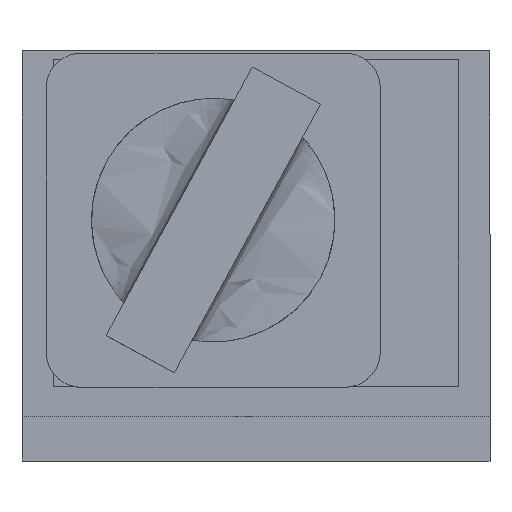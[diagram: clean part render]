
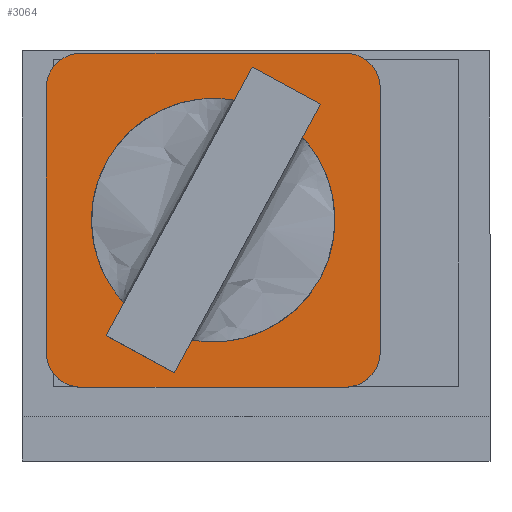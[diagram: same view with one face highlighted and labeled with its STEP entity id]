
A CAD part, top view. The second image highlights one B-rep face of the part: STEP entity #3064.
In plain terms, the highlighted planar face has unit normal (0, 0, 1).
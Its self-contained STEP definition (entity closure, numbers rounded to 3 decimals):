
#21 = CARTESIAN_POINT ( 'NONE',  ( 19.9, -19.9, 447.5 ) ) ;
#42 = DIRECTION ( 'NONE',  ( 1., 0., 0. ) ) ;
#53 = ORIENTED_EDGE ( 'NONE', *, *, #2892, .T. ) ;
#110 = VECTOR ( 'NONE', #1929, 1000. ) ;
#157 = EDGE_CURVE ( 'NONE', #1849, #644, #1875, .T. ) ;
#204 = ORIENTED_EDGE ( 'NONE', *, *, #1153, .F. ) ;
#207 = CARTESIAN_POINT ( 'NONE',  ( -39.1, 39.1, 447.5 ) ) ;
#213 = CARTESIAN_POINT ( 'NONE',  ( 19.9, -27.9, 447.5 ) ) ;
#258 = DIRECTION ( 'NONE',  ( 0., 0., 1. ) ) ;
#274 = CARTESIAN_POINT ( 'NONE',  ( -39.1, 47.1, 447.5 ) ) ;
#377 = LINE ( 'NONE', #274, #110 ) ;
#414 = VECTOR ( 'NONE', #732, 1000. ) ;
#471 = CARTESIAN_POINT ( 'NONE',  ( -47.1, -19.9, 447.5 ) ) ;
#515 = CARTESIAN_POINT ( 'NONE',  ( -33.588, 22.633, 447.5 ) ) ;
#518 = ORIENTED_EDGE ( 'NONE', *, *, #1864, .T. ) ;
#520 = PLANE ( 'NONE',  #2648 ) ;
#598 = CARTESIAN_POINT ( 'NONE',  ( 19.9, -19.9, 447.5 ) ) ;
#601 = CARTESIAN_POINT ( 'NONE',  ( -9.6, 9.6, 447.5 ) ) ;
#644 = VERTEX_POINT ( 'NONE', #890 ) ;
#654 = CARTESIAN_POINT ( 'NONE',  ( 19.9, 47.1, 447.5 ) ) ;
#680 = ORIENTED_EDGE ( 'NONE', *, *, #864, .T. ) ;
#705 = VECTOR ( 'NONE', #42, 1000. ) ;
#708 = VERTEX_POINT ( 'NONE', #2405 ) ;
#732 = DIRECTION ( 'NONE',  ( 0., 1., 0. ) ) ;
#733 = EDGE_CURVE ( 'NONE', #644, #708, #1754, .T. ) ;
#767 = EDGE_CURVE ( 'NONE', #1155, #2804, #1132, .T. ) ;
#800 = CIRCLE ( 'NONE', #2827, 8. ) ;
#827 = DIRECTION ( 'NONE',  ( 0., 0., 1. ) ) ;
#828 = AXIS2_PLACEMENT_3D ( 'NONE', #2059, #1803, #2562 ) ;
#839 = CIRCLE ( 'NONE', #828, 27.3 ) ;
#840 = VERTEX_POINT ( 'NONE', #515 ) ;
#864 = EDGE_CURVE ( 'NONE', #1197, #1738, #377, .T. ) ;
#890 = CARTESIAN_POINT ( 'NONE',  ( 27.9, -19.9, 447.5 ) ) ;
#901 = DIRECTION ( 'NONE',  ( 0., -1., 0. ) ) ;
#902 = ORIENTED_EDGE ( 'NONE', *, *, #733, .T. ) ;
#934 = DIRECTION ( 'NONE',  ( 0., 0., 1. ) ) ;
#943 = CARTESIAN_POINT ( 'NONE',  ( 27.9, -19.9, 447.5 ) ) ;
#947 = VERTEX_POINT ( 'NONE', #1249 ) ;
#951 = CARTESIAN_POINT ( 'NONE',  ( -39.1, -27.9, 447.5 ) ) ;
#985 = EDGE_CURVE ( 'NONE', #840, #2385, #2724, .T. ) ;
#1119 = ORIENTED_EDGE ( 'NONE', *, *, #2523, .T. ) ;
#1132 = CIRCLE ( 'NONE', #2057, 8. ) ;
#1149 = ORIENTED_EDGE ( 'NONE', *, *, #1897, .F. ) ;
#1152 = CARTESIAN_POINT ( 'NONE',  ( 14.388, -3.433, 447.5 ) ) ;
#1153 = EDGE_CURVE ( 'NONE', #947, #840, #839, .T. ) ;
#1155 = VERTEX_POINT ( 'NONE', #1336 ) ;
#1157 = DIRECTION ( 'NONE',  ( 0., -1., 0. ) ) ;
#1175 = EDGE_CURVE ( 'NONE', #708, #1197, #2518, .T. ) ;
#1197 = VERTEX_POINT ( 'NONE', #654 ) ;
#1249 = CARTESIAN_POINT ( 'NONE',  ( -9.6, 36.9, 447.5 ) ) ;
#1312 = AXIS2_PLACEMENT_3D ( 'NONE', #1650, #934, #1157 ) ;
#1336 = CARTESIAN_POINT ( 'NONE',  ( -47.1, -19.9, 447.5 ) ) ;
#1348 = AXIS2_PLACEMENT_3D ( 'NONE', #3038, #1584, #1832 ) ;
#1455 = CIRCLE ( 'NONE', #1312, 27.3 ) ;
#1475 = DIRECTION ( 'NONE',  ( 0., -1., 0. ) ) ;
#1584 = DIRECTION ( 'NONE',  ( 0., 0., 1. ) ) ;
#1650 = CARTESIAN_POINT ( 'NONE',  ( -9.6, 9.6, 447.5 ) ) ;
#1698 = DIRECTION ( 'NONE',  ( 0., 0., 1. ) ) ;
#1738 = VERTEX_POINT ( 'NONE', #2556 ) ;
#1749 = DIRECTION ( 'NONE',  ( 0., -1., 0. ) ) ;
#1754 = LINE ( 'NONE', #943, #414 ) ;
#1771 = VECTOR ( 'NONE', #901, 1000. ) ;
#1803 = DIRECTION ( 'NONE',  ( 0., 0., 1. ) ) ;
#1832 = DIRECTION ( 'NONE',  ( 0., 1., 0. ) ) ;
#1849 = VERTEX_POINT ( 'NONE', #213 ) ;
#1864 = EDGE_CURVE ( 'NONE', #3099, #1155, #2564, .T. ) ;
#1873 = FACE_BOUND ( 'NONE', #2289, .T. ) ;
#1875 = CIRCLE ( 'NONE', #3001, 8. ) ;
#1897 = EDGE_CURVE ( 'NONE', #2385, #947, #1455, .T. ) ;
#1929 = DIRECTION ( 'NONE',  ( -1., 0., 0. ) ) ;
#2016 = CARTESIAN_POINT ( 'NONE',  ( -39.1, -27.9, 447.5 ) ) ;
#2057 = AXIS2_PLACEMENT_3D ( 'NONE', #2199, #258, #2709 ) ;
#2059 = CARTESIAN_POINT ( 'NONE',  ( -9.6, 9.6, 447.5 ) ) ;
#2166 = CARTESIAN_POINT ( 'NONE',  ( -47.1, 39.1, 447.5 ) ) ;
#2183 = ORIENTED_EDGE ( 'NONE', *, *, #157, .T. ) ;
#2191 = LINE ( 'NONE', #951, #705 ) ;
#2199 = CARTESIAN_POINT ( 'NONE',  ( -39.1, -19.9, 447.5 ) ) ;
#2289 = EDGE_LOOP ( 'NONE', ( #1149, #2782, #204 ) ) ;
#2385 = VERTEX_POINT ( 'NONE', #1152 ) ;
#2392 = DIRECTION ( 'NONE',  ( 0., 0., 1. ) ) ;
#2405 = CARTESIAN_POINT ( 'NONE',  ( 27.9, 39.1, 447.5 ) ) ;
#2464 = ORIENTED_EDGE ( 'NONE', *, *, #767, .T. ) ;
#2501 = DIRECTION ( 'NONE',  ( 0., -1., 0. ) ) ;
#2518 = CIRCLE ( 'NONE', #1348, 8. ) ;
#2523 = EDGE_CURVE ( 'NONE', #2804, #1849, #2191, .T. ) ;
#2551 = FACE_OUTER_BOUND ( 'NONE', #2758, .T. ) ;
#2556 = CARTESIAN_POINT ( 'NONE',  ( -39.1, 47.1, 447.5 ) ) ;
#2562 = DIRECTION ( 'NONE',  ( 0., -1., 0. ) ) ;
#2564 = LINE ( 'NONE', #471, #1771 ) ;
#2648 = AXIS2_PLACEMENT_3D ( 'NONE', #21, #1698, #1475 ) ;
#2709 = DIRECTION ( 'NONE',  ( 0., 1., 0. ) ) ;
#2724 = CIRCLE ( 'NONE', #2904, 27.3 ) ;
#2758 = EDGE_LOOP ( 'NONE', ( #1119, #2183, #902, #2877, #680, #53, #518, #2464 ) ) ;
#2782 = ORIENTED_EDGE ( 'NONE', *, *, #985, .F. ) ;
#2804 = VERTEX_POINT ( 'NONE', #2016 ) ;
#2827 = AXIS2_PLACEMENT_3D ( 'NONE', #207, #2392, #2848 ) ;
#2848 = DIRECTION ( 'NONE',  ( 0., 1., 0. ) ) ;
#2877 = ORIENTED_EDGE ( 'NONE', *, *, #1175, .T. ) ;
#2892 = EDGE_CURVE ( 'NONE', #1738, #3099, #800, .T. ) ;
#2904 = AXIS2_PLACEMENT_3D ( 'NONE', #601, #827, #2501 ) ;
#2945 = DIRECTION ( 'NONE',  ( 0., 0., 1. ) ) ;
#3001 = AXIS2_PLACEMENT_3D ( 'NONE', #598, #2945, #1749 ) ;
#3038 = CARTESIAN_POINT ( 'NONE',  ( 19.9, 39.1, 447.5 ) ) ;
#3064 = ADVANCED_FACE ( 'NONE', ( #1873, #2551 ), #520, .T. ) ;
#3099 = VERTEX_POINT ( 'NONE', #2166 ) ;
